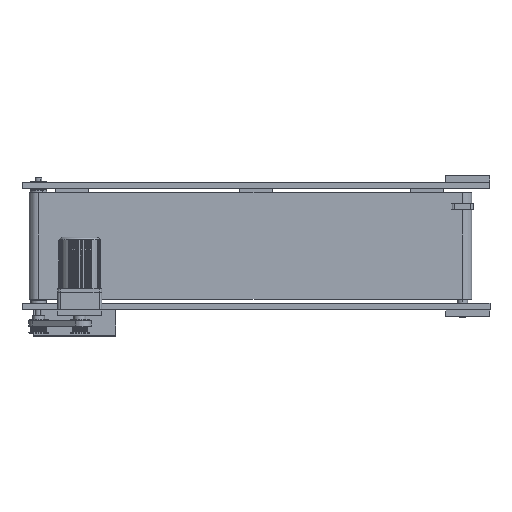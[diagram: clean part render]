
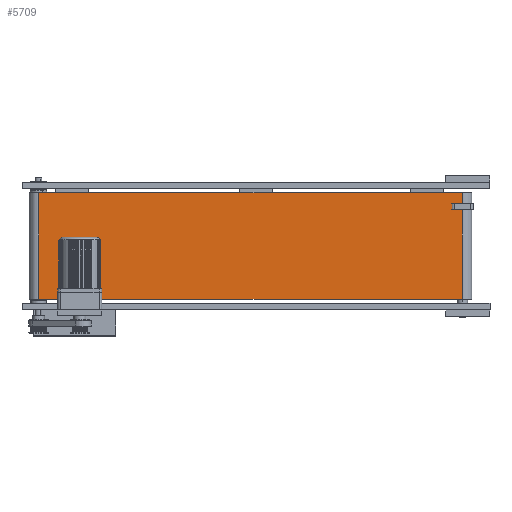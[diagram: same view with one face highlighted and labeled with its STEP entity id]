
A CAD part, front view. The second image highlights one B-rep face of the part: STEP entity #5709.
In plain terms, the highlighted planar face has unit normal (0, -1, 0).
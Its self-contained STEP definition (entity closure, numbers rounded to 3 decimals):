
#2055=PLANE('',#35264);
#5709=ADVANCED_FACE('',(#7571),#2055,.F.);
#7571=FACE_OUTER_BOUND('',#9285,.T.);
#9285=EDGE_LOOP('',(#16614,#16615,#16616,#16617));
#11395=LINE('',#47058,#13378);
#11396=LINE('',#47062,#13379);
#11401=LINE('',#47081,#13384);
#11405=LINE('',#47092,#13388);
#13378=VECTOR('',#38855,1.);
#13379=VECTOR('',#38860,1.);
#13384=VECTOR('',#38877,1.);
#13388=VECTOR('',#38889,1.);
#16614=ORIENTED_EDGE('',*,*,#29105,.T.);
#16615=ORIENTED_EDGE('',*,*,#29111,.F.);
#16616=ORIENTED_EDGE('',*,*,#29095,.F.);
#16617=ORIENTED_EDGE('',*,*,#29093,.T.);
#25639=VERTEX_POINT('',#47053);
#25641=VERTEX_POINT('',#47057);
#25643=VERTEX_POINT('',#47063);
#25650=VERTEX_POINT('',#47080);
#29093=EDGE_CURVE('',#25639,#25641,#11395,.T.);
#29095=EDGE_CURVE('',#25639,#25643,#11396,.T.);
#29105=EDGE_CURVE('',#25641,#25650,#11401,.T.);
#29111=EDGE_CURVE('',#25643,#25650,#11405,.T.);
#35264=AXIS2_PLACEMENT_3D('',#47093,#38890,#38891);
#38855=DIRECTION('',(0.,0.,-1.));
#38860=DIRECTION('',(1.,0.,0.));
#38877=DIRECTION('',(1.,0.,0.));
#38889=DIRECTION('',(0.,0.,-1.));
#38890=DIRECTION('',(0.,1.,0.));
#38891=DIRECTION('',(0.,0.,-1.));
#47053=CARTESIAN_POINT('',(0.,-17.,194.));
#47057=CARTESIAN_POINT('',(0.,-17.,0.));
#47058=CARTESIAN_POINT('',(0.,-17.,194.));
#47062=CARTESIAN_POINT('',(0.,-17.,194.));
#47063=CARTESIAN_POINT('',(770.,-17.,194.));
#47080=CARTESIAN_POINT('',(770.,-17.,0.));
#47081=CARTESIAN_POINT('',(0.,-17.,0.));
#47092=CARTESIAN_POINT('',(770.,-17.,194.));
#47093=CARTESIAN_POINT('',(0.,-17.,194.));
